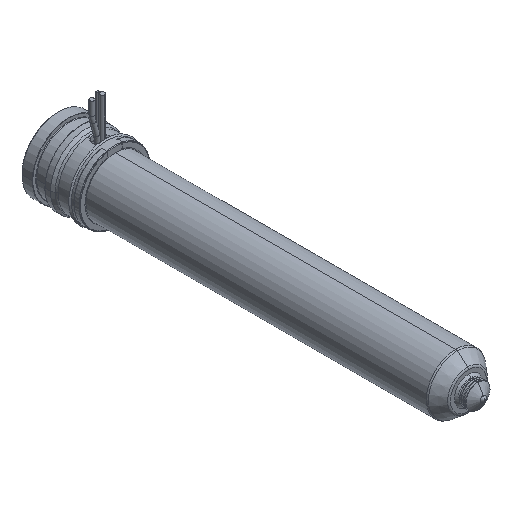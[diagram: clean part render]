
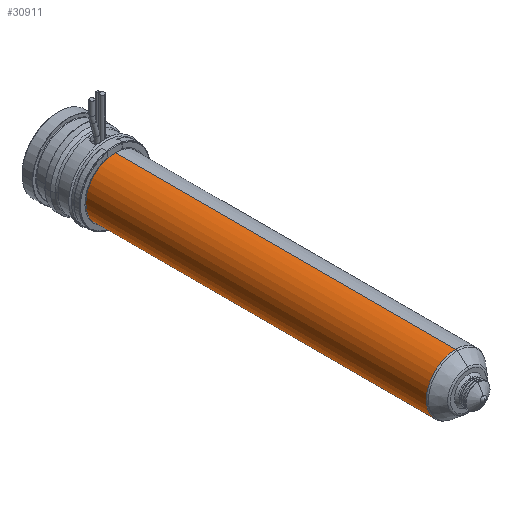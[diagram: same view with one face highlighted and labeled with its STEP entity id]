
A CAD part, isometric view. The second image highlights one B-rep face of the part: STEP entity #30911.
In plain terms, the highlighted cylindrical face has radius 12 mm (diameter 24 mm), a partial arc.
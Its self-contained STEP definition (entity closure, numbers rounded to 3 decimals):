
#30396=CARTESIAN_POINT('',(0.,-24.,0.));
#30397=DIRECTION('',(0.,1.,0.));
#30398=DIRECTION('',(0.,0.,-1.));
#30399=AXIS2_PLACEMENT_3D('',#30396,#30397,#30398);
#30404=DIRECTION('',(0.,1.,0.));
#30405=VECTOR('',#30404,139.736);
#30406=CARTESIAN_POINT('',(0.,-163.736,12.));
#30407=LINE('',#30406,#30405);
#30419=DIRECTION('',(0.,1.,0.));
#30420=VECTOR('',#30419,139.736);
#30421=CARTESIAN_POINT('',(0.,-163.736,-12.));
#30422=LINE('',#30421,#30420);
#30450=CARTESIAN_POINT('',(0.,-163.736,0.));
#30451=DIRECTION('',(0.,-1.,0.));
#30452=DIRECTION('',(0.,0.,1.));
#30453=AXIS2_PLACEMENT_3D('',#30450,#30451,#30452);
#30780=CARTESIAN_POINT('',(0.,-163.736,12.));
#30781=CARTESIAN_POINT('',(0.,-24.,12.));
#30782=VERTEX_POINT('',#30780);
#30783=VERTEX_POINT('',#30781);
#30784=CARTESIAN_POINT('',(0.,-163.736,-12.));
#30785=CARTESIAN_POINT('',(0.,-24.,-12.));
#30786=VERTEX_POINT('',#30784);
#30787=VERTEX_POINT('',#30785);
#30897=CARTESIAN_POINT('',(0.,-12.2,0.));
#30898=DIRECTION('',(0.,-1.,0.));
#30899=DIRECTION('',(0.,0.,1.));
#30900=AXIS2_PLACEMENT_3D('',#30897,#30898,#30899);
#30901=CYLINDRICAL_SURFACE('',#30900,12.);
#30903=ORIENTED_EDGE('',*,*,#30902,.F.);
#30905=ORIENTED_EDGE('',*,*,#30904,.T.);
#30907=ORIENTED_EDGE('',*,*,#30906,.T.);
#30908=ORIENTED_EDGE('',*,*,#30890,.T.);
#30909=EDGE_LOOP('',(#30903,#30905,#30907,#30908));
#30910=FACE_OUTER_BOUND('',#30909,.F.);
#30911=ADVANCED_FACE('',(#30910),#30901,.T.);
#30400=CIRCLE('',#30399,12.);
#30454=CIRCLE('',#30453,12.);
#30890=EDGE_CURVE('',#30787,#30783,#30400,.T.);
#30902=EDGE_CURVE('',#30782,#30783,#30407,.T.);
#30904=EDGE_CURVE('',#30782,#30786,#30454,.T.);
#30906=EDGE_CURVE('',#30786,#30787,#30422,.T.);
